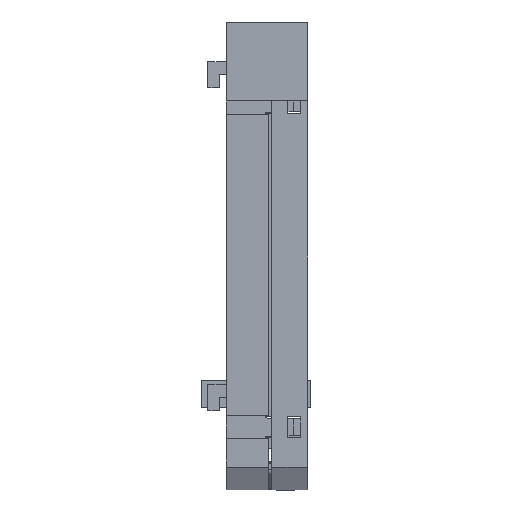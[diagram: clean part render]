
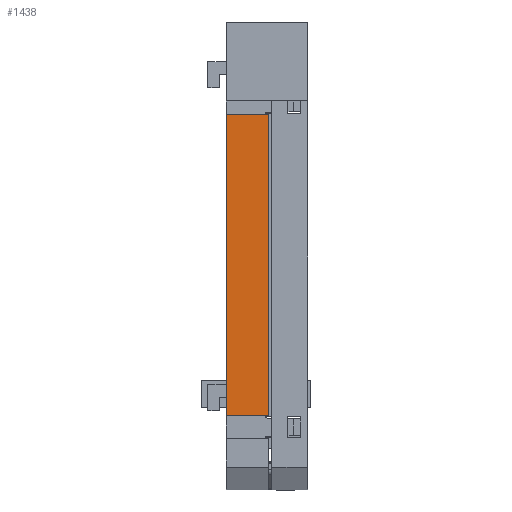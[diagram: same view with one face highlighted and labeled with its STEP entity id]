
A CAD part, front view. The second image highlights one B-rep face of the part: STEP entity #1438.
In plain terms, the highlighted planar face has unit normal (0, -1, 0).
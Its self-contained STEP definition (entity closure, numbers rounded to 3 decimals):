
#985 = LINE ( 'NONE', #11611, #28041 ) ;
#1438 = ADVANCED_FACE ( 'NONE', ( #8216 ), #23196, .F. ) ;
#1490 = CARTESIAN_POINT ( 'NONE',  ( 0., 0., -57.349 ) ) ;
#1618 = DIRECTION ( 'NONE',  ( 1., 0., 0. ) ) ;
#1810 = ORIENTED_EDGE ( 'NONE', *, *, #30622, .F. ) ;
#2109 = VERTEX_POINT ( 'NONE', #15669 ) ;
#2669 = VERTEX_POINT ( 'NONE', #32653 ) ;
#3630 = CARTESIAN_POINT ( 'NONE',  ( 6.5, 0., 0. ) ) ;
#5108 = ORIENTED_EDGE ( 'NONE', *, *, #20766, .T. ) ;
#6976 = LINE ( 'NONE', #3630, #14548 ) ;
#7143 = ORIENTED_EDGE ( 'NONE', *, *, #9202, .T. ) ;
#8216 = FACE_OUTER_BOUND ( 'NONE', #16386, .T. ) ;
#9202 = EDGE_CURVE ( 'NONE', #2669, #29963, #12169, .T. ) ;
#9887 = VERTEX_POINT ( 'NONE', #28187 ) ;
#10707 = AXIS2_PLACEMENT_3D ( 'NONE', #28310, #30873, #15663 ) ;
#11339 = VECTOR ( 'NONE', #27999, 1000. ) ;
#11611 = CARTESIAN_POINT ( 'NONE',  ( 0., 0., -11.141 ) ) ;
#12169 = LINE ( 'NONE', #25468, #11339 ) ;
#14548 = VECTOR ( 'NONE', #21412, 1000. ) ;
#15663 = DIRECTION ( 'NONE',  ( 0., 0., 1. ) ) ;
#15669 = CARTESIAN_POINT ( 'NONE',  ( 6.5, 0., -57.349 ) ) ;
#16386 = EDGE_LOOP ( 'NONE', ( #7143, #5108, #21634, #1810 ) ) ;
#16583 = DIRECTION ( 'NONE',  ( 1., 0., 0. ) ) ;
#16866 = CARTESIAN_POINT ( 'NONE',  ( 0., 0., -57.349 ) ) ;
#18002 = EDGE_CURVE ( 'NONE', #9887, #2109, #6976, .T. ) ;
#18390 = VECTOR ( 'NONE', #1618, 1000. ) ;
#20766 = EDGE_CURVE ( 'NONE', #29963, #2109, #24368, .T. ) ;
#21412 = DIRECTION ( 'NONE',  ( 0., 0., -1. ) ) ;
#21634 = ORIENTED_EDGE ( 'NONE', *, *, #18002, .F. ) ;
#23196 = PLANE ( 'NONE',  #10707 ) ;
#24368 = LINE ( 'NONE', #16866, #18390 ) ;
#25468 = CARTESIAN_POINT ( 'NONE',  ( 0., 0., 0. ) ) ;
#27999 = DIRECTION ( 'NONE',  ( 0., 0., -1. ) ) ;
#28041 = VECTOR ( 'NONE', #16583, 1000. ) ;
#28187 = CARTESIAN_POINT ( 'NONE',  ( 6.5, 0., -11.141 ) ) ;
#28310 = CARTESIAN_POINT ( 'NONE',  ( 7., 0., 0. ) ) ;
#29963 = VERTEX_POINT ( 'NONE', #1490 ) ;
#30622 = EDGE_CURVE ( 'NONE', #2669, #9887, #985, .T. ) ;
#30873 = DIRECTION ( 'NONE',  ( 0., 1., 0. ) ) ;
#32653 = CARTESIAN_POINT ( 'NONE',  ( 0., 0., -11.141 ) ) ;
